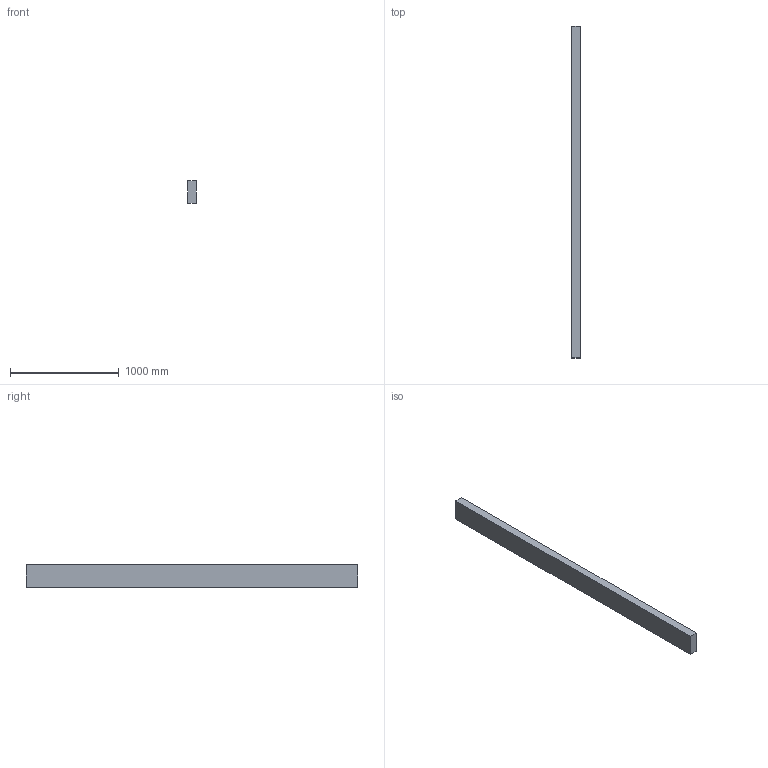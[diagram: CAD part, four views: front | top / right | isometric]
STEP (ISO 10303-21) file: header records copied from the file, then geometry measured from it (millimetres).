
FILE_DESCRIPTION(/* description */ (''),/* implementation_level */ '2;1');
FILE_NAME(/* name */ '3x8x120',/* time_stamp */ '2024-09-20T11:44:01-05:00',/* author */ (''),/* organization */ (''),/* preprocessor_version */ 'ST-DEVELOPER v19.2',/* originating_system */ 'Rhino 8.5',/* authorisation */ '');
FILE_SCHEMA (('CONFIG_CONTROL_DESIGN'));
Length unit declared in the file: inch
Products named in the file (1): Document
Bounding box: 76.2 x 3048 x 203.2 mm (x, y, z)
Volume: 47194744.3 mm3; surface area: 1734190.1 mm2
Topology: 1 solids, 1 shells, 6 faces, 12 edges, 8 vertices
Faces by surface type: plane 6
Entity records: 226 total; most frequent: CARTESIAN_POINT 40, ORIENTED_EDGE 24, EDGE_CURVE 12, B_SPLINE_CURVE_WITH_KNOTS 12, DIRECTION 10, VERTEX_POINT 8, AXIS2_PLACEMENT_3D 8, ORGANIZATION 7
